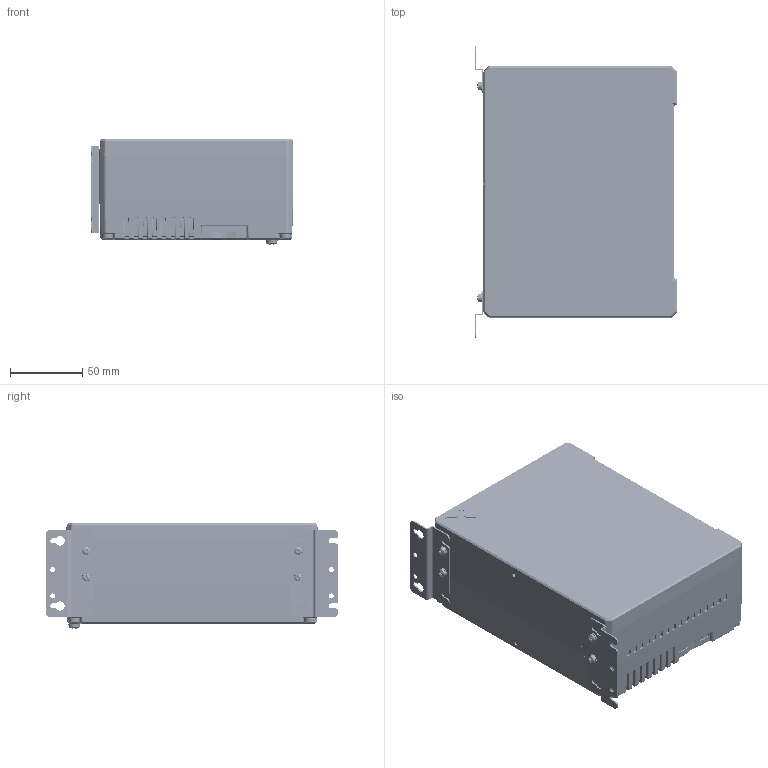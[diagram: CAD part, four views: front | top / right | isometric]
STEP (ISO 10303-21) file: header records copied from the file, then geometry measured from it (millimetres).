
FILE_DESCRIPTION (( 'STEP AP203' ), '1' );
FILE_NAME ('Xedge Expanded.STEP', '2024-11-20T15:43:20', ( '' ), ( '' ), 'SwSTEP 2.0', 'SolidWorks 2024', '' );
FILE_SCHEMA (( 'CONFIG_CONTROL_DESIGN' ));
Products named in the file (1): Xedge Expanded
Bounding box: 140.12 x 202.5 x 72.96 mm (x, y, z)
Volume: 1470039.2 mm3; surface area: 183513.7 mm2
Topology: 1 solids, 18 shells, 11237 faces, 30952 edges, 19682 vertices
Faces by surface type: plane 7062, cylinder 2822, bspline 628, torus 295, cone 244, sphere 186
Entity records: 373557 total; most frequent: CARTESIAN_POINT 90670, ORIENTED_EDGE 61844, DIRECTION 55264, EDGE_CURVE 30922, VECTOR 22452, LINE 22452, VERTEX_POINT 19682, AXIS2_PLACEMENT_3D 16406
